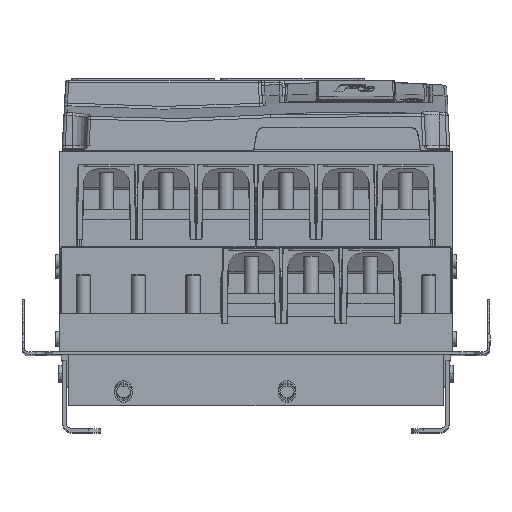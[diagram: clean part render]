
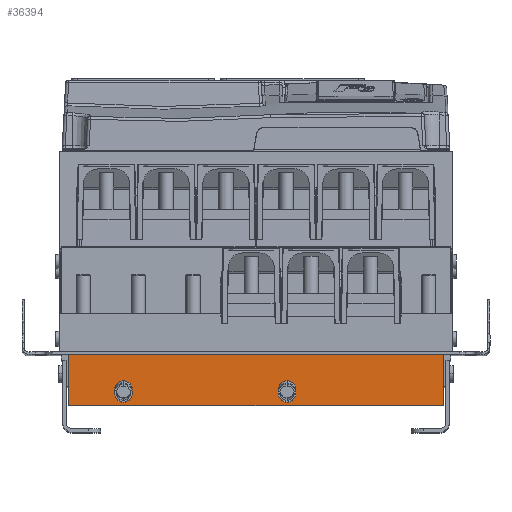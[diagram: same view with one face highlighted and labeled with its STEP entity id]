
A CAD part, top view. The second image highlights one B-rep face of the part: STEP entity #36394.
In plain terms, the highlighted planar face has unit normal (0, 0, 1).
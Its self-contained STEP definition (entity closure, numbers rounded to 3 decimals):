
#117 = VECTOR ( 'NONE', #38247, 1000. ) ;
#5211 = LINE ( 'NONE', #32753, #77328 ) ;
#6089 = VERTEX_POINT ( 'NONE', #85461 ) ;
#8491 = CARTESIAN_POINT ( 'NONE',  ( 26., 4.94, 640.5 ) ) ;
#9793 = LINE ( 'NONE', #37775, #37091 ) ;
#10783 = EDGE_CURVE ( 'NONE', #17815, #89446, #9793, .T. ) ;
#10904 = EDGE_LOOP ( 'NONE', ( #28391, #28336 ) ) ;
#11395 = ORIENTED_EDGE ( 'NONE', *, *, #35819, .F. ) ;
#11518 = ORIENTED_EDGE ( 'NONE', *, *, #18880, .F. ) ;
#12659 = DIRECTION ( 'NONE',  ( 0., 1., 0. ) ) ;
#17815 = VERTEX_POINT ( 'NONE', #62726 ) ;
#18392 = CARTESIAN_POINT ( 'NONE',  ( -96., -11.022, 640.5 ) ) ;
#18859 = CARTESIAN_POINT ( 'NONE',  ( -111., 4.94, 640.5 ) ) ;
#18880 = EDGE_CURVE ( 'NONE', #85356, #68744, #84638, .T. ) ;
#18951 = LINE ( 'NONE', #46927, #117 ) ;
#18975 = DIRECTION ( 'NONE',  ( -1., 0., 0. ) ) ;
#20140 = EDGE_CURVE ( 'NONE', #36553, #38321, #44526, .T. ) ;
#20712 =( BOUNDED_CURVE ( )  B_SPLINE_CURVE ( 3, ( #82003, #24994, #26352, #39199 ),
 .UNSPECIFIED., .F., .T. ) 
 B_SPLINE_CURVE_WITH_KNOTS ( ( 4, 4 ),
 ( 0., 3.142 ),
 .UNSPECIFIED. ) 
 CURVE ( )  GEOMETRIC_REPRESENTATION_ITEM ( )  RATIONAL_B_SPLINE_CURVE ( ( 1., 0.333, 0.333, 1. ) ) 
 REPRESENTATION_ITEM ( '' )  );
#23331 = CARTESIAN_POINT ( 'NONE',  ( -111., -11.022, 640.5 ) ) ;
#24501 = EDGE_LOOP ( 'NONE', ( #37858, #27221, #49172, #50387 ) ) ;
#24994 = CARTESIAN_POINT ( 'NONE',  ( -126., 4.94, 640.5 ) ) ;
#25225 = CARTESIAN_POINT ( 'NONE',  ( 26., 4.94, 640.5 ) ) ;
#25490 = CARTESIAN_POINT ( 'NONE',  ( 157., -16., 640.5 ) ) ;
#26352 = CARTESIAN_POINT ( 'NONE',  ( -126., -11.022, 640.5 ) ) ;
#26863 = DIRECTION ( 'NONE',  ( 0., 1., 0. ) ) ;
#27221 = ORIENTED_EDGE ( 'NONE', *, *, #10783, .T. ) ;
#28336 = ORIENTED_EDGE ( 'NONE', *, *, #54290, .F. ) ;
#28391 = ORIENTED_EDGE ( 'NONE', *, *, #20140, .F. ) ;
#29735 = VERTEX_POINT ( 'NONE', #35456 ) ;
#32753 = CARTESIAN_POINT ( 'NONE',  ( 157., -16., 640.5 ) ) ;
#33316 = LINE ( 'NONE', #25490, #74816 ) ;
#33503 = CARTESIAN_POINT ( 'NONE',  ( 26., -11.022, 640.5 ) ) ;
#34222 = FACE_BOUND ( 'NONE', #10904, .T. ) ;
#34383 =( BOUNDED_CURVE ( )  B_SPLINE_CURVE ( 3, ( #61009, #60116, #88254, #25225 ),
 .UNSPECIFIED., .F., .T. ) 
 B_SPLINE_CURVE_WITH_KNOTS ( ( 4, 4 ),
 ( 3.142, 6.283 ),
 .UNSPECIFIED. ) 
 CURVE ( )  GEOMETRIC_REPRESENTATION_ITEM ( )  RATIONAL_B_SPLINE_CURVE ( ( 1., 0.333, 0.333, 1. ) ) 
 REPRESENTATION_ITEM ( '' )  );
#34401 = CARTESIAN_POINT ( 'NONE',  ( 11., -11.022, 640.5 ) ) ;
#35456 = CARTESIAN_POINT ( 'NONE',  ( 157., -16., 640.5 ) ) ;
#35819 = EDGE_CURVE ( 'NONE', #68744, #85356, #20712, .T. ) ;
#36394 = ADVANCED_FACE ( 'NONE', ( #34222, #83448, #54864 ), #88969, .F. ) ;
#36553 = VERTEX_POINT ( 'NONE', #8491 ) ;
#37091 = VECTOR ( 'NONE', #71843, 1000. ) ;
#37775 = CARTESIAN_POINT ( 'NONE',  ( 157., 27., 640.5 ) ) ;
#37858 = ORIENTED_EDGE ( 'NONE', *, *, #72288, .T. ) ;
#38247 = DIRECTION ( 'NONE',  ( 0., 1., 0. ) ) ;
#38321 = VERTEX_POINT ( 'NONE', #70785 ) ;
#39199 = CARTESIAN_POINT ( 'NONE',  ( -111., -11.022, 640.5 ) ) ;
#41980 = DIRECTION ( 'NONE',  ( 0., 0., -1. ) ) ;
#44526 =( BOUNDED_CURVE ( )  B_SPLINE_CURVE ( 3, ( #76718, #90497, #34401, #33503 ),
 .UNSPECIFIED., .F., .T. ) 
 B_SPLINE_CURVE_WITH_KNOTS ( ( 4, 4 ),
 ( 0., 3.142 ),
 .UNSPECIFIED. ) 
 CURVE ( )  GEOMETRIC_REPRESENTATION_ITEM ( )  RATIONAL_B_SPLINE_CURVE ( ( 1., 0.333, 0.333, 1. ) ) 
 REPRESENTATION_ITEM ( '' )  );
#46927 = CARTESIAN_POINT ( 'NONE',  ( -157., -16., 640.5 ) ) ;
#47007 = EDGE_LOOP ( 'NONE', ( #11395, #11518 ) ) ;
#48874 = CARTESIAN_POINT ( 'NONE',  ( 157., -16., 640.5 ) ) ;
#49172 = ORIENTED_EDGE ( 'NONE', *, *, #75111, .F. ) ;
#49798 = EDGE_CURVE ( 'NONE', #29735, #6089, #5211, .T. ) ;
#50387 = ORIENTED_EDGE ( 'NONE', *, *, #49798, .F. ) ;
#52053 = CARTESIAN_POINT ( 'NONE',  ( -157., 27., 640.5 ) ) ;
#52398 = CARTESIAN_POINT ( 'NONE',  ( -111., -11.022, 640.5 ) ) ;
#54290 = EDGE_CURVE ( 'NONE', #38321, #36553, #34383, .T. ) ;
#54864 = FACE_OUTER_BOUND ( 'NONE', #24501, .T. ) ;
#60116 = CARTESIAN_POINT ( 'NONE',  ( 41., -11.022, 640.5 ) ) ;
#61009 = CARTESIAN_POINT ( 'NONE',  ( 26., -11.022, 640.5 ) ) ;
#62726 = CARTESIAN_POINT ( 'NONE',  ( 157., 27., 640.5 ) ) ;
#64663 = AXIS2_PLACEMENT_3D ( 'NONE', #48874, #41980, #12659 ) ;
#67895 = CARTESIAN_POINT ( 'NONE',  ( -111., 4.94, 640.5 ) ) ;
#68744 = VERTEX_POINT ( 'NONE', #67895 ) ;
#70785 = CARTESIAN_POINT ( 'NONE',  ( 26., -11.022, 640.5 ) ) ;
#71843 = DIRECTION ( 'NONE',  ( -1., 0., 0. ) ) ;
#72288 = EDGE_CURVE ( 'NONE', #29735, #17815, #33316, .T. ) ;
#73571 = CARTESIAN_POINT ( 'NONE',  ( -96., 4.94, 640.5 ) ) ;
#74816 = VECTOR ( 'NONE', #26863, 1000. ) ;
#75111 = EDGE_CURVE ( 'NONE', #6089, #89446, #18951, .T. ) ;
#76718 = CARTESIAN_POINT ( 'NONE',  ( 26., 4.94, 640.5 ) ) ;
#77328 = VECTOR ( 'NONE', #18975, 1000. ) ;
#82003 = CARTESIAN_POINT ( 'NONE',  ( -111., 4.94, 640.5 ) ) ;
#83448 = FACE_BOUND ( 'NONE', #47007, .T. ) ;
#84638 =( BOUNDED_CURVE ( )  B_SPLINE_CURVE ( 3, ( #52398, #18392, #73571, #18859 ),
 .UNSPECIFIED., .F., .T. ) 
 B_SPLINE_CURVE_WITH_KNOTS ( ( 4, 4 ),
 ( 3.142, 6.283 ),
 .UNSPECIFIED. ) 
 CURVE ( )  GEOMETRIC_REPRESENTATION_ITEM ( )  RATIONAL_B_SPLINE_CURVE ( ( 1., 0.333, 0.333, 1. ) ) 
 REPRESENTATION_ITEM ( '' )  );
#85356 = VERTEX_POINT ( 'NONE', #23331 ) ;
#85461 = CARTESIAN_POINT ( 'NONE',  ( -157., -16., 640.5 ) ) ;
#88254 = CARTESIAN_POINT ( 'NONE',  ( 41., 4.94, 640.5 ) ) ;
#88969 = PLANE ( 'NONE',  #64663 ) ;
#89446 = VERTEX_POINT ( 'NONE', #52053 ) ;
#90497 = CARTESIAN_POINT ( 'NONE',  ( 11., 4.94, 640.5 ) ) ;
